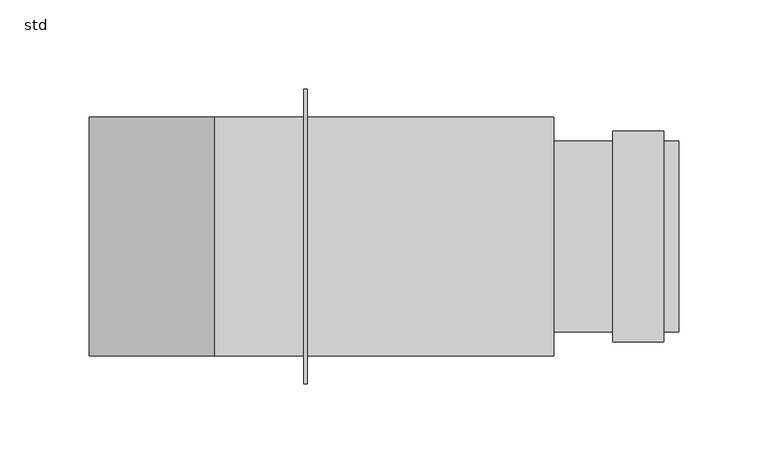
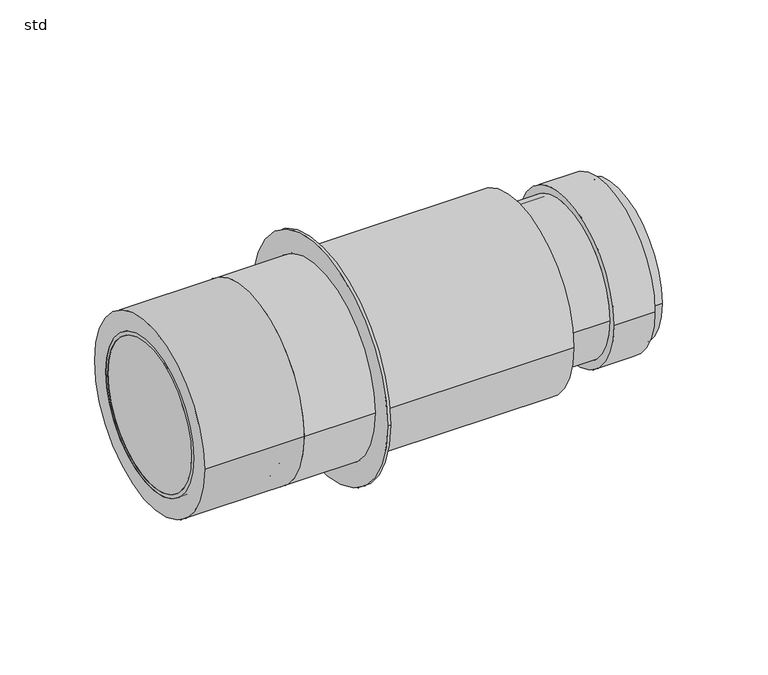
"""IFC4 building model written with IfcOpenShell, lengths in millimetres: pipe fitting geometry, PIF_ST_UN_GM-X compound pipe down-pipe (union)_ACO : std."""

import ifcopenshell
import ifcopenshell.guid

model = None  # the IFC model being written
_history = None  # IfcOwnerHistory: only IFC2X3 demands one
_inside = {}  # id of a spatial element -> (the spatial element, [elements in it])
_under = {}  # id of a project, library or spatial element -> (it, [spatial elements below it])
_declared = {}  # id of a project -> (the project, [libraries it declares])
_typed = {}  # id of a type object -> (the type object, [elements of that type])
_made_of = {}  # id of a material, layer set ... -> (it, [elements and type objects made of it])


def new_model(schema):
    """Start an empty IFC model of exactly this schema.

    Asked for "IFC4X3", IfcOpenShell would pick the latest addendum, in which some entities
    have other attributes; the version numbers below select the first issue.
    IFC2X3 requires an IfcOwnerHistory on every rooted entity: one is made here for all.
    """
    global model, _history
    if schema == "IFC4X3":
        model = ifcopenshell.file(schema_version=(4, 3, 0, 0))
    else:
        model = ifcopenshell.file(schema=schema)
    _inside.clear()
    _under.clear()
    _declared.clear()
    _typed.clear()
    _made_of.clear()
    _history = None
    if model.schema == "IFC2X3":
        org = make("IfcOrganization", Name="unknown")
        user = make(
            "IfcPersonAndOrganization",
            ThePerson=make("IfcPerson", FamilyName="unknown"),
            TheOrganization=org,
        )
        app = make(
            "IfcApplication",
            ApplicationDeveloper=org,
            Version="unknown",
            ApplicationFullName="unknown",
            ApplicationIdentifier="unknown",
        )
        _history = make(
            "IfcOwnerHistory",
            OwningUser=user,
            OwningApplication=app,
            ChangeAction="ADDED",
            CreationDate=0,
        )
    return model


def make(cls, **values):
    """One entity of the class cls with the attributes given. An attribute that is None is left unset."""
    return model.create_entity(
        cls, **{name: value for name, value in values.items() if value is not None}
    )


def rooted(cls, **values):
    """An entity with a GlobalId (a new one), such as an element, a storey or a relation."""
    return make(cls, GlobalId=ifcopenshell.guid.new(), OwnerHistory=_history, **values)


def si_unit(unit_type, name, prefix=None):
    """IfcSIUnit, for example si_unit("LENGTHUNIT", "METRE", prefix="MILLI")."""
    return make("IfcSIUnit", UnitType=unit_type, Prefix=prefix, Name=name)


def assignment(units):
    """IfcUnitAssignment: the units of a project."""
    return None if units is None else make("IfcUnitAssignment", Units=units)


def point(xyz):
    """IfcCartesianPoint."""
    return None if xyz is None else make("IfcCartesianPoint", Coordinates=xyz)


def direction(xyz):
    """IfcDirection."""
    return None if xyz is None else make("IfcDirection", DirectionRatios=xyz)


def frame(location, z_axis=None, x_axis=None):
    """IfcAxis2Placement3D, a coordinate frame: its origin and axes. An axis left out is left unset."""
    return make(
        "IfcAxis2Placement3D",
        Location=point(location),
        Axis=direction(z_axis),
        RefDirection=direction(x_axis),
    )


def frame_2d(location, x_axis=None):
    """IfcAxis2Placement2D, a coordinate frame in the plane: its origin and x axis."""
    return make(
        "IfcAxis2Placement2D", Location=point(location), RefDirection=direction(x_axis)
    )


def origin():
    """The frame at (0, 0, 0) with its axes left unset."""
    return frame((0.0, 0.0, 0.0))


def origin_2d():
    """The frame at (0, 0) in the plane with its x axis left unset."""
    return frame_2d((0.0, 0.0))


def place(relative_to, where):
    """IfcLocalPlacement: puts the frame where relative to a parent placement (None: the world)."""
    return make(
        "IfcLocalPlacement", PlacementRelTo=relative_to, RelativePlacement=where
    )


def context(
    kind, dimensions, precision=None, world=None, true_north=None, identifier=None
):
    """IfcGeometricRepresentationContext, for example the 3D "Model" context."""
    return make(
        "IfcGeometricRepresentationContext",
        ContextIdentifier=identifier,
        ContextType=kind,
        CoordinateSpaceDimension=dimensions,
        Precision=precision,
        WorldCoordinateSystem=world,
        TrueNorth=true_north,
    )


def project(units=None, contexts=None):
    """IfcProject with its units and contexts."""
    return rooted(
        "IfcProject",
        Name="project",
        RepresentationContexts=contexts,
        UnitsInContext=assignment(units),
    )


def spatial(cls, under=None, at=None, **own):
    """A site, building, storey or space (cls), placed at a placement, below another one or the project."""
    s = rooted(cls, ObjectPlacement=at, **own)
    if under is not None:
        _under.setdefault(under.id(), (under, []))[1].append(s)
    return s


def polyline(points):
    """IfcPolyline through the points."""
    return make("IfcPolyline", Points=[point(p) for p in points])


def circle_curve(where, radius):
    """IfcCircle in the frame where."""
    return make("IfcCircle", Position=where, Radius=radius)


def trimmed(basis, trim1, trim2, sense, master):
    """IfcTrimmedCurve: the piece of a basis curve between two trims."""
    return make(
        "IfcTrimmedCurve",
        BasisCurve=basis,
        Trim1=trim1,
        Trim2=trim2,
        SenseAgreement=sense,
        MasterRepresentation=master,
    )


def segment(curve, same_sense, transition):
    """IfcCompositeCurveSegment."""
    return make(
        "IfcCompositeCurveSegment",
        Transition=transition,
        SameSense=same_sense,
        ParentCurve=curve,
    )


def composite_curve(segments, self_intersect=None):
    """IfcCompositeCurve: segments joined end to end."""
    return make("IfcCompositeCurve", Segments=segments, SelfIntersect=self_intersect)


def outline(outer, holes=None, kind="AREA"):
    """IfcArbitraryClosedProfileDef: a profile drawn as a closed curve; with holes, ...WithVoids."""
    if holes is None:
        return make("IfcArbitraryClosedProfileDef", ProfileType=kind, OuterCurve=outer)
    return make(
        "IfcArbitraryProfileDefWithVoids",
        ProfileType=kind,
        OuterCurve=outer,
        InnerCurves=holes,
    )


def extrude(swept, where, along, depth):
    """IfcExtrudedAreaSolid: the profile swept, set in the frame where, extruded along a direction by depth."""
    return make(
        "IfcExtrudedAreaSolid",
        SweptArea=swept,
        Position=where,
        ExtrudedDirection=direction(along),
        Depth=depth,
    )


def shape(context_of_items, identifier, shape_type, items):
    """IfcShapeRepresentation: the items that make up one representation, for example the "Body"."""
    return make(
        "IfcShapeRepresentation",
        ContextOfItems=context_of_items,
        RepresentationIdentifier=identifier,
        RepresentationType=shape_type,
        Items=items,
    )


def source(mapping_origin, context_of_items, identifier, shape_type, items):
    """IfcRepresentationMap: a shape defined once, which mapped items show again and again."""
    return make(
        "IfcRepresentationMap",
        MappingOrigin=mapping_origin,
        MappedRepresentation=shape(context_of_items, identifier, shape_type, items),
    )


def transform(
    local_origin,
    x_axis=None,
    y_axis=None,
    z_axis=None,
    scale=None,
    scale2=None,
    scale3=None,
    uniform=True,
):
    """IfcCartesianTransformationOperator3D, or its non-uniform kind. x_axis, y_axis, z_axis: its Axis1, 2, 3."""
    if uniform:
        return make(
            "IfcCartesianTransformationOperator3D",
            Axis1=direction(x_axis),
            Axis2=direction(y_axis),
            LocalOrigin=point(local_origin),
            Scale=scale,
            Axis3=direction(z_axis),
        )
    return make(
        "IfcCartesianTransformationOperator3DnonUniform",
        Axis1=direction(x_axis),
        Axis2=direction(y_axis),
        LocalOrigin=point(local_origin),
        Scale=scale,
        Axis3=direction(z_axis),
        Scale2=scale2,
        Scale3=scale3,
    )


def mapped(mapping_source, mapping_target):
    """IfcMappedItem: shows the shape of a source again, moved by a transform."""
    return make(
        "IfcMappedItem", MappingSource=mapping_source, MappingTarget=mapping_target
    )


def made_of(thing, what):
    """Note that an element or type object is made of a material, layer set ...; save() writes the relation."""
    if what is not None:
        _made_of.setdefault(what.id(), (what, []))[1].append(thing)
    return thing


def element(
    cls,
    number,
    at=None,
    inside=None,
    cuts=None,
    type_object=None,
    material=None,
    context=None,
    identifier="Body",
    shape_type=None,
    held_by="IfcProductDefinitionShape",
    body=None,
    shapes=None,
    **own,
):
    """One element of the class cls, such as IfcWall. Its Tag is "e" and its number.

    at: its placement. inside: the storey or other place that contains it. cuts: it is an
    opening in that element (IfcRelVoidsElement). A single representation is given by context,
    identifier, shape_type and body (its items); several are given by shapes. held_by: the class
    of the entity that holds the representations. save() writes the other relations.
    """
    e = rooted(cls, Tag="e%d" % number, ObjectPlacement=at, **own)
    if body is not None:
        shapes = [shape(context, identifier, shape_type, body)]
    if shapes is not None:
        e.Representation = make(held_by, Representations=shapes)
    if inside is not None:
        _inside.setdefault(inside.id(), (inside, []))[1].append(e)
    if cuts is not None:
        rooted(
            "IfcRelVoidsElement", RelatingBuildingElement=cuts, RelatedOpeningElement=e
        )
    if type_object is not None:
        _typed.setdefault(type_object.id(), (type_object, []))[1].append(e)
    return made_of(e, material)


def aggregate(whole, parts):
    """IfcRelAggregates: a whole, such as a stair, and the parts it consists of."""
    return rooted("IfcRelAggregates", RelatingObject=whole, RelatedObjects=parts)


def save(model, path):
    """Write the relations noted so far, then the file.

    IfcRelAggregates (storeys below a building ...), IfcRelContainedInSpatialStructure (elements
    in a storey), IfcRelDefinesByType, IfcRelAssociatesMaterial and IfcRelDeclares: one each for
    every whole, place, type object, material and project.
    """
    for whole, parts in _under.values():
        aggregate(whole, parts)
    for where, things in _inside.values():
        rooted(
            "IfcRelContainedInSpatialStructure",
            RelatedElements=things,
            RelatingStructure=where,
        )
    for kind, things in _typed.values():
        rooted("IfcRelDefinesByType", RelatedObjects=things, RelatingType=kind)
    for what, things in _made_of.values():
        rooted("IfcRelAssociatesMaterial", RelatedObjects=things, RelatingMaterial=what)
    for by, libraries in _declared.values():
        rooted("IfcRelDeclares", RelatingContext=by, RelatedDefinitions=libraries)
    model.write(path)


def plane_surface(at):
    """IfcPlane: the flat surface through the origin of the frame at, square to its z axis."""
    return make("IfcPlane", Position=at)


def cylinder_surface(at, radius):
    """IfcCylindricalSurface: all points at the distance radius from the z axis of the frame at."""
    return make("IfcCylindricalSurface", Position=at, Radius=radius)


def revolved_surface(curve, axis_point, axis_direction):
    """IfcSurfaceOfRevolution: the curve turned about the line through axis_point along axis_direction."""
    return make(
        "IfcSurfaceOfRevolution",
        SweptCurve=make("IfcArbitraryOpenProfileDef", ProfileType="CURVE", Curve=curve),
        AxisPosition=make("IfcAxis1Placement", Location=point(axis_point), Axis=direction(axis_direction)),
    )


def advanced_brep(points, edges, surfaces, faces):
    """IfcAdvancedBrep: a solid bounded by faces that lie on surfaces and meet in shared edges.

    An edge is (start, end): straight between two places in points (the first is 0);
    or (start, end, curve); or (start, end, curve, False) where it runs against its curve.
    A face is (place in surfaces, loops), or (place, loops, False) where it looks against
    its surface's normal. A loop lists edges by number (the first is 1), with a minus sign
    where the edge is run from its end to its start. The first loop is the outer one.
    """
    corners = [point(p) for p in points]
    vertices = [make("IfcVertexPoint", VertexGeometry=c) for c in corners]
    made = []
    for start, end, *more in edges:
        made.append(
            make(
                "IfcEdgeCurve",
                EdgeStart=vertices[start],
                EdgeEnd=vertices[end],
                EdgeGeometry=more[0] if more else make("IfcPolyline", Points=[corners[start], corners[end]]),
                SameSense=more[1] if len(more) > 1 else True,
            )
        )
    hull = []
    for where, loops, *sense in faces:
        bounds = []
        for j, loop in enumerate(loops):
            ring = [make("IfcOrientedEdge", EdgeElement=made[abs(k) - 1], Orientation=k > 0) for k in loop]
            bounds.append(
                make(
                    "IfcFaceOuterBound" if j == 0 else "IfcFaceBound",
                    Bound=make("IfcEdgeLoop", EdgeList=ring),
                    Orientation=True,
                )
            )
        hull.append(make("IfcAdvancedFace", Bounds=bounds, FaceSurface=surfaces[where], SameSense=sense[0] if sense else True))
    return make("IfcAdvancedBrep", Outer=make("IfcClosedShell", CfsFaces=hull))


def std_b06a406c(model_context):
    return source(origin(), model_context, "Body", "SolidModel", [
        extrude(outline(composite_curve([segment(trimmed(circle_curve(origin_2d(), 67.0), [point((67.0, 0.0))], [point((-67.0, 0.0))], False, "CARTESIAN"), True, "CONTINUOUS"), segment(trimmed(circle_curve(origin_2d(), 67.0), [point((-67.0, 0.0))], [point((67.0, 0.0))], False, "CARTESIAN"), True, "CONTINUOUS")], self_intersect=False), holes=[composite_curve([segment(trimmed(circle_curve(origin_2d(), 53.5), [point((-53.5, 0.0))], [point((53.5, 0.0))], True, "CARTESIAN"), True, "CONTINUOUS"), segment(trimmed(circle_curve(origin_2d(), 53.5), [point((53.5, 0.0))], [point((-53.5, 0.0))], True, "CARTESIAN"), True, "CONTINUOUS")], self_intersect=False)]), frame((-260.0, 0.0, 0.0), z_axis=(1.0, 0.0, 0.0), x_axis=(0.0, 1.0, 0.0)), (0.0, 0.0, 1.0), 70.0),
        advanced_brep(
        [(-260.0, 53.5, 0.0), (-260.0, -53.5, 0.0), (-260.0, -51.0, 0.0), (-260.0, 51.0, 0.0), (-190.0, 53.5, 0.0), (-190.0, -53.5, 0.0), (-190.0, 51.0, 0.0), (-190.0, -51.0, 0.0), (-227.0, 53.5, 0.0), (-227.0, -53.5, 0.0), (-198.3, -53.5, 0.0), (-198.3, 53.5, 0.0), (-227.0, 59.0, 0.0), (-227.0, -59.0, 0.0), (-198.3, 59.0, 0.0), (-198.3, -59.0, 0.0)],
        [
            (0, 1, circle_curve(frame((-260.0, 0.0, 0.0), z_axis=(-1.0, 0.0, 0.0), x_axis=(0.0, -1.0, 0.0)), 53.5)),
            (1, 0, circle_curve(frame((-260.0, 0.0, 0.0), z_axis=(-1.0, 0.0, 0.0), x_axis=(0.0, -1.0, 0.0)), 53.5)),
            (2, 3, circle_curve(frame((-260.0, 0.0, 0.0), z_axis=(1.0, 0.0, 0.0), x_axis=(0.0, -1.0, 0.0)), 51.0)),
            (3, 2, circle_curve(frame((-260.0, 0.0, 0.0), z_axis=(1.0, 0.0, 0.0), x_axis=(0.0, -1.0, 0.0)), 51.0)),
            (4, 5, circle_curve(frame((-190.0, 0.0, 0.0), z_axis=(1.0, 0.0, 0.0), x_axis=(0.0, -1.0, 0.0)), 53.5)),
            (5, 4, circle_curve(frame((-190.0, 0.0, 0.0), z_axis=(1.0, 0.0, 0.0), x_axis=(0.0, -1.0, 0.0)), 53.5)),
            (6, 7, circle_curve(frame((-190.0, 0.0, 0.0), z_axis=(-1.0, 0.0, 0.0), x_axis=(0.0, -1.0, 0.0)), 51.0)),
            (7, 6, circle_curve(frame((-190.0, 0.0, 0.0), z_axis=(-1.0, 0.0, 0.0), x_axis=(0.0, -1.0, 0.0)), 51.0)),
            (0, 8),
            (8, 9, circle_curve(frame((-227.0, 0.0, 0.0), z_axis=(-1.0, 0.0, 0.0), x_axis=(0.0, -1.0, 0.0)), 53.5)),
            (9, 1),
            (5, 10),
            (10, 11, circle_curve(frame((-198.3, 0.0, 0.0), z_axis=(1.0, 0.0, 0.0), x_axis=(0.0, -1.0, 0.0)), 53.5)),
            (11, 4),
            (9, 8, circle_curve(frame((-227.0, 0.0, 0.0), z_axis=(-1.0, 0.0, 0.0), x_axis=(0.0, -1.0, 0.0)), 53.5)),
            (11, 10, circle_curve(frame((-198.3, 0.0, 0.0), z_axis=(1.0, 0.0, 0.0), x_axis=(0.0, -1.0, 0.0)), 53.5)),
            (2, 7),
            (6, 3),
            (12, 13, circle_curve(frame((-227.0, 0.0, 0.0), z_axis=(-1.0, 0.0, 0.0), x_axis=(0.0, -1.0, 0.0)), 59.0)),
            (13, 12, circle_curve(frame((-227.0, 0.0, 0.0), z_axis=(-1.0, 0.0, 0.0), x_axis=(0.0, -1.0, 0.0)), 59.0)),
            (14, 15, circle_curve(frame((-198.3, 0.0, 0.0), z_axis=(1.0, 0.0, 0.0), x_axis=(0.0, -1.0, 0.0)), 59.0)),
            (15, 14, circle_curve(frame((-198.3, 0.0, 0.0), z_axis=(1.0, 0.0, 0.0), x_axis=(0.0, -1.0, 0.0)), 59.0)),
            (12, 14),
            (15, 13),
        ],
        [
            plane_surface(frame((-260.0, -53.5, 0.0), z_axis=(-1.0, 0.0, 0.0), x_axis=(0.0, 0.0, 1.0))),
            plane_surface(frame((-190.0, -53.5, 0.0), z_axis=(1.0, 0.0, 0.0), x_axis=(0.0, 0.0, -1.0))),
            cylinder_surface(frame((-190.0, 0.0, 0.0), z_axis=(-1.0, 0.0, 0.0), x_axis=(0.0, -1.0, 0.0)), 53.5),
            revolved_surface(polyline([(-260.0, -51.0, 0.0), (-190.0, -51.0, 0.0)]), (-190.0, 0.0, 0.0), (-1.0, 0.0, 0.0)),
            plane_surface(frame((-227.0, -59.0, 0.0), z_axis=(-1.0, 0.0, 0.0), x_axis=(0.0, 0.0, 1.0))),
            plane_surface(frame((-198.3, -59.0, 0.0), z_axis=(1.0, 0.0, 0.0), x_axis=(0.0, 0.0, -1.0))),
            cylinder_surface(frame((-198.3, 0.0, 0.0), z_axis=(-1.0, 0.0, 0.0), x_axis=(0.0, -1.0, 0.0)), 59.0),
        ],
        [
            (0, [[1, 2], [3, 4]]),
            (1, [[5, 6], [7, 8]]),
            (2, [[-1, 9, 10, 11]]),
            (2, [[-6, 12, 13, 14]]),
            (2, [[-2, -11, 15, -9]]),
            (2, [[-5, -14, 16, -12]]),
            (3, [[17, -7, 18, -3]]),
            (3, [[-17, -4, -18, -8]]),
            (4, [[19, 20], [-10, -15]]),
            (5, [[21, 22], [-13, -16]]),
            (6, [[-19, 23, -22, 24]]),
            (6, [[-20, -24, -21, -23]]),
        ],
    ),
        advanced_brep(
        [(61.7, 59.0, 0.0), (61.7, -59.0, 0.0), (33.0, -59.0, 0.0), (33.0, 59.0, 0.0), (70.0, -53.5, 0.0), (70.0, 53.5, 0.0), (70.0, 51.0, 0.0), (70.0, -51.0, 0.0), (0.0, -53.5, 0.0), (0.0, 53.5, 0.0), (0.0, -51.0, 0.0), (0.0, 51.0, 0.0), (61.7, -53.5, 0.0), (61.7, 53.5, 0.0), (33.0, 53.5, 0.0), (33.0, -53.5, 0.0)],
        [
            (0, 1, circle_curve(frame((61.7, 0.0, 0.0), z_axis=(-1.0, 0.0, 0.0), x_axis=(0.0, 1.0, 0.0)), 59.0)),
            (1, 2),
            (2, 3, circle_curve(frame((33.0, 0.0, 0.0), z_axis=(1.0, 0.0, 0.0), x_axis=(0.0, 1.0, 0.0)), 59.0)),
            (3, 0),
            (1, 0, circle_curve(frame((61.7, 0.0, 0.0), z_axis=(-1.0, 0.0, 0.0), x_axis=(0.0, 1.0, 0.0)), 59.0)),
            (3, 2, circle_curve(frame((33.0, 0.0, 0.0), z_axis=(1.0, 0.0, 0.0), x_axis=(0.0, 1.0, 0.0)), 59.0)),
            (4, 5, circle_curve(frame((70.0, 0.0, 0.0), z_axis=(1.0, 0.0, 0.0), x_axis=(0.0, 1.0, 0.0)), 53.5)),
            (5, 4, circle_curve(frame((70.0, 0.0, 0.0), z_axis=(1.0, 0.0, 0.0), x_axis=(0.0, 1.0, 0.0)), 53.5)),
            (6, 7, circle_curve(frame((70.0, 0.0, 0.0), z_axis=(-1.0, 0.0, 0.0), x_axis=(0.0, 1.0, 0.0)), 51.0)),
            (7, 6, circle_curve(frame((70.0, 0.0, 0.0), z_axis=(-1.0, 0.0, 0.0), x_axis=(0.0, 1.0, 0.0)), 51.0)),
            (8, 9, circle_curve(frame((0.0, 0.0, 0.0), z_axis=(-1.0, 0.0, 0.0), x_axis=(0.0, 1.0, 0.0)), 53.5)),
            (9, 8, circle_curve(frame((0.0, 0.0, 0.0), z_axis=(-1.0, 0.0, 0.0), x_axis=(0.0, 1.0, 0.0)), 53.5)),
            (10, 11, circle_curve(frame((0.0, 0.0, 0.0), z_axis=(1.0, 0.0, 0.0), x_axis=(0.0, 1.0, 0.0)), 51.0)),
            (11, 10, circle_curve(frame((0.0, 0.0, 0.0), z_axis=(1.0, 0.0, 0.0), x_axis=(0.0, 1.0, 0.0)), 51.0)),
            (4, 12),
            (12, 13, circle_curve(frame((61.7, 0.0, 0.0), z_axis=(1.0, 0.0, 0.0), x_axis=(0.0, 1.0, 0.0)), 53.5)),
            (13, 5),
            (9, 14),
            (14, 15, circle_curve(frame((33.0, 0.0, 0.0), z_axis=(-1.0, 0.0, 0.0), x_axis=(0.0, 1.0, 0.0)), 53.5)),
            (15, 8),
            (13, 12, circle_curve(frame((61.7, 0.0, 0.0), z_axis=(1.0, 0.0, 0.0), x_axis=(0.0, 1.0, 0.0)), 53.5)),
            (15, 14, circle_curve(frame((33.0, 0.0, 0.0), z_axis=(-1.0, 0.0, 0.0), x_axis=(0.0, 1.0, 0.0)), 53.5)),
            (6, 11),
            (10, 7),
        ],
        [
            cylinder_surface(frame((33.0, 0.0, 0.0), z_axis=(1.0, 0.0, 0.0), x_axis=(0.0, 1.0, 0.0)), 59.0),
            plane_surface(frame((70.0, 53.5, 0.0), z_axis=(1.0, 0.0, 0.0), x_axis=(0.0, 0.0, 1.0))),
            plane_surface(frame((0.0, 53.5, 0.0), z_axis=(-1.0, 0.0, 0.0), x_axis=(0.0, 0.0, -1.0))),
            cylinder_surface(frame((0.0, 0.0, 0.0), z_axis=(1.0, 0.0, 0.0), x_axis=(0.0, 1.0, 0.0)), 53.5),
            revolved_surface(polyline([(70.0, 51.0, 0.0), (0.0, 51.0, 0.0)]), (0.0, 0.0, 0.0), (1.0, 0.0, 0.0)),
            plane_surface(frame((61.7, 59.0, 0.0), z_axis=(1.0, 0.0, 0.0), x_axis=(0.0, 0.0, 1.0))),
            plane_surface(frame((33.0, 59.0, 0.0), z_axis=(-1.0, 0.0, 0.0), x_axis=(0.0, 0.0, -1.0))),
        ],
        [
            (0, [[1, 2, 3, 4]]),
            (0, [[5, -4, 6, -2]]),
            (1, [[7, 8], [9, 10]]),
            (2, [[11, 12], [13, 14]]),
            (3, [[-7, 15, 16, 17]]),
            (3, [[-12, 18, 19, 20]]),
            (3, [[-8, -17, 21, -15]]),
            (3, [[-11, -20, 22, -18]]),
            (4, [[23, -13, 24, -9]]),
            (4, [[-23, -10, -24, -14]]),
            (5, [[-1, -5], [-16, -21]]),
            (6, [[-6, -3], [-19, -22]]),
        ],
    ),
        extrude(outline(composite_curve([segment(trimmed(circle_curve(origin_2d(), 82.5), [point((82.5, 0.0))], [point((-82.5, 0.0))], False, "CARTESIAN"), True, "CONTINUOUS"), segment(trimmed(circle_curve(origin_2d(), 82.5), [point((-82.5, 0.0))], [point((82.5, 0.0))], False, "CARTESIAN"), True, "CONTINUOUS")], self_intersect=False), holes=[composite_curve([segment(trimmed(circle_curve(origin_2d(), 67.0), [point((67.0, 0.0))], [point((-67.0, 0.0))], True, "CARTESIAN"), True, "CONTINUOUS"), segment(trimmed(circle_curve(origin_2d(), 67.0), [point((-67.0, 0.0))], [point((67.0, 0.0))], True, "CARTESIAN"), True, "CONTINUOUS")], self_intersect=False)]), frame((-140.0, 0.0, 0.0), z_axis=(1.0, 0.0, 0.0), x_axis=(0.0, 1.0, 0.0)), (0.0, 0.0, 1.0), 2.0),
        extrude(outline(composite_curve([segment(trimmed(circle_curve(origin_2d(), 67.0), [point((67.0, 0.0))], [point((-67.0, 0.0))], False, "CARTESIAN"), True, "CONTINUOUS"), segment(trimmed(circle_curve(origin_2d(), 67.0), [point((-67.0, 0.0))], [point((67.0, 0.0))], False, "CARTESIAN"), True, "CONTINUOUS")], self_intersect=False)), frame((-190.0, 0.0, 0.0), z_axis=(1.0, 0.0, 0.0), x_axis=(0.0, 1.0, 0.0)), (0.0, 0.0, 1.0), 190.0),
        extrude(outline(composite_curve([segment(trimmed(circle_curve(origin_2d(), 51.0), [point((-51.0, 0.0))], [point((51.0, 0.0))], False, "CARTESIAN"), True, "CONTINUOUS"), segment(trimmed(circle_curve(origin_2d(), 51.0), [point((51.0, 0.0))], [point((-51.0, 0.0))], False, "CARTESIAN"), True, "CONTINUOUS")], self_intersect=False)), frame((-260.0, 0.0, 0.0), z_axis=(1.0, 0.0, 0.0), x_axis=(0.0, 1.0, 0.0)), (0.0, 0.0, 1.0), 70.0),
    ])


if __name__ == "__main__":
    model = new_model("IFC4")
    model_context = context("Model", 3, world=origin())
    ifc_project = project(units=[si_unit("LENGTHUNIT", "METRE", prefix="MILLI")], contexts=[model_context])
    site = spatial("IfcSite", under=ifc_project)
    building = spatial("IfcBuilding", under=site)
    placement = place(None, origin())
    std_shape = std_b06a406c(model_context)
    element("IfcPipeFitting", 1, ObjectType="PIF_ST_UN_GM-X compound pipe down-pipe (union)_ACO : std", at=placement, inside=building, context=model_context, shape_type="MappedRepresentation", body=[
        mapped(std_shape, transform((0.0, 0.0, 0.0), x_axis=(1.0, 0.0, 0.0), y_axis=(0.0, 1.0, 0.0), z_axis=(0.0, 0.0, 1.0))),
    ])
    save(model, "model.ifc")
